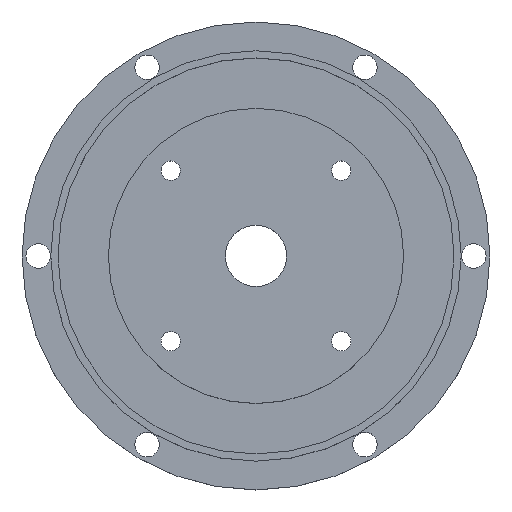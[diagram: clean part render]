
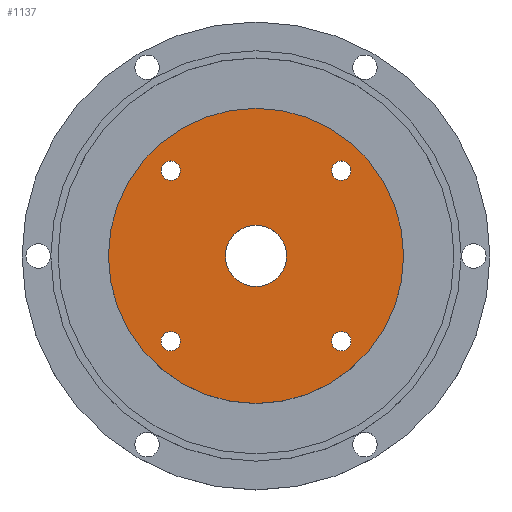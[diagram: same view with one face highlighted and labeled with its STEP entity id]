
A CAD part, top view. The second image highlights one B-rep face of the part: STEP entity #1137.
In plain terms, the highlighted planar face has unit normal (0, 0, 1).
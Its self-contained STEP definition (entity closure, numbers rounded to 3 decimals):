
#160 = CYLINDRICAL_SURFACE('',#161,1.35);
#161 = AXIS2_PLACEMENT_3D('',#162,#163,#164);
#162 = CARTESIAN_POINT('',(-11.844,-11.844,0.));
#163 = DIRECTION('',(-0.,-0.,-1.));
#164 = DIRECTION('',(1.,0.,0.));
#222 = CYLINDRICAL_SURFACE('',#223,1.35);
#223 = AXIS2_PLACEMENT_3D('',#224,#225,#226);
#224 = CARTESIAN_POINT('',(11.844,-11.844,0.));
#225 = DIRECTION('',(-0.,-0.,-1.));
#226 = DIRECTION('',(1.,0.,0.));
#284 = CYLINDRICAL_SURFACE('',#285,4.25);
#285 = AXIS2_PLACEMENT_3D('',#286,#287,#288);
#286 = CARTESIAN_POINT('',(0.,0.,0.));
#287 = DIRECTION('',(-0.,-0.,-1.));
#288 = DIRECTION('',(1.,0.,0.));
#315 = CYLINDRICAL_SURFACE('',#316,1.35);
#316 = AXIS2_PLACEMENT_3D('',#317,#318,#319);
#317 = CARTESIAN_POINT('',(-11.844,11.844,0.));
#318 = DIRECTION('',(-0.,-0.,-1.));
#319 = DIRECTION('',(1.,0.,0.));
#377 = CYLINDRICAL_SURFACE('',#378,1.35);
#378 = AXIS2_PLACEMENT_3D('',#379,#380,#381);
#379 = CARTESIAN_POINT('',(11.844,11.844,0.));
#380 = DIRECTION('',(-0.,-0.,-1.));
#381 = DIRECTION('',(1.,0.,0.));
#697 = VERTEX_POINT('',#698);
#698 = CARTESIAN_POINT('',(-10.494,-11.844,9.));
#719 = EDGE_CURVE('',#697,#697,#720,.T.);
#720 = SURFACE_CURVE('',#721,(#726,#733),.PCURVE_S1.);
#721 = CIRCLE('',#722,1.35);
#722 = AXIS2_PLACEMENT_3D('',#723,#724,#725);
#723 = CARTESIAN_POINT('',(-11.844,-11.844,9.));
#724 = DIRECTION('',(0.,0.,1.));
#725 = DIRECTION('',(1.,0.,0.));
#726 = PCURVE('',#160,#727);
#727 = DEFINITIONAL_REPRESENTATION('',(#728),#732);
#728 = LINE('',#729,#730);
#729 = CARTESIAN_POINT('',(-0.,-9.));
#730 = VECTOR('',#731,1.);
#731 = DIRECTION('',(-1.,0.));
#732 = ( GEOMETRIC_REPRESENTATION_CONTEXT(2) 
PARAMETRIC_REPRESENTATION_CONTEXT() REPRESENTATION_CONTEXT('2D SPACE',''
  ) );
#733 = PCURVE('',#734,#739);
#734 = PLANE('',#735);
#735 = AXIS2_PLACEMENT_3D('',#736,#737,#738);
#736 = CARTESIAN_POINT('',(0.,0.,9.));
#737 = DIRECTION('',(0.,0.,1.));
#738 = DIRECTION('',(1.,0.,-0.));
#739 = DEFINITIONAL_REPRESENTATION('',(#740),#744);
#740 = CIRCLE('',#741,1.35);
#741 = AXIS2_PLACEMENT_2D('',#742,#743);
#742 = CARTESIAN_POINT('',(-11.844,-11.844));
#743 = DIRECTION('',(1.,0.));
#744 = ( GEOMETRIC_REPRESENTATION_CONTEXT(2) 
PARAMETRIC_REPRESENTATION_CONTEXT() REPRESENTATION_CONTEXT('2D SPACE',''
  ) );
#779 = VERTEX_POINT('',#780);
#780 = CARTESIAN_POINT('',(13.194,-11.844,9.));
#801 = EDGE_CURVE('',#779,#779,#802,.T.);
#802 = SURFACE_CURVE('',#803,(#808,#815),.PCURVE_S1.);
#803 = CIRCLE('',#804,1.35);
#804 = AXIS2_PLACEMENT_3D('',#805,#806,#807);
#805 = CARTESIAN_POINT('',(11.844,-11.844,9.));
#806 = DIRECTION('',(0.,0.,1.));
#807 = DIRECTION('',(1.,0.,0.));
#808 = PCURVE('',#222,#809);
#809 = DEFINITIONAL_REPRESENTATION('',(#810),#814);
#810 = LINE('',#811,#812);
#811 = CARTESIAN_POINT('',(-0.,-9.));
#812 = VECTOR('',#813,1.);
#813 = DIRECTION('',(-1.,0.));
#814 = ( GEOMETRIC_REPRESENTATION_CONTEXT(2) 
PARAMETRIC_REPRESENTATION_CONTEXT() REPRESENTATION_CONTEXT('2D SPACE',''
  ) );
#815 = PCURVE('',#734,#816);
#816 = DEFINITIONAL_REPRESENTATION('',(#817),#821);
#817 = CIRCLE('',#818,1.35);
#818 = AXIS2_PLACEMENT_2D('',#819,#820);
#819 = CARTESIAN_POINT('',(11.844,-11.844));
#820 = DIRECTION('',(1.,0.));
#821 = ( GEOMETRIC_REPRESENTATION_CONTEXT(2) 
PARAMETRIC_REPRESENTATION_CONTEXT() REPRESENTATION_CONTEXT('2D SPACE',''
  ) );
#856 = VERTEX_POINT('',#857);
#857 = CARTESIAN_POINT('',(4.25,0.,9.));
#878 = EDGE_CURVE('',#856,#856,#879,.T.);
#879 = SURFACE_CURVE('',#880,(#885,#892),.PCURVE_S1.);
#880 = CIRCLE('',#881,4.25);
#881 = AXIS2_PLACEMENT_3D('',#882,#883,#884);
#882 = CARTESIAN_POINT('',(0.,0.,9.));
#883 = DIRECTION('',(0.,0.,1.));
#884 = DIRECTION('',(1.,0.,0.));
#885 = PCURVE('',#284,#886);
#886 = DEFINITIONAL_REPRESENTATION('',(#887),#891);
#887 = LINE('',#888,#889);
#888 = CARTESIAN_POINT('',(-0.,-9.));
#889 = VECTOR('',#890,1.);
#890 = DIRECTION('',(-1.,0.));
#891 = ( GEOMETRIC_REPRESENTATION_CONTEXT(2) 
PARAMETRIC_REPRESENTATION_CONTEXT() REPRESENTATION_CONTEXT('2D SPACE',''
  ) );
#892 = PCURVE('',#734,#893);
#893 = DEFINITIONAL_REPRESENTATION('',(#894),#898);
#894 = CIRCLE('',#895,4.25);
#895 = AXIS2_PLACEMENT_2D('',#896,#897);
#896 = CARTESIAN_POINT('',(0.,0.));
#897 = DIRECTION('',(1.,0.));
#898 = ( GEOMETRIC_REPRESENTATION_CONTEXT(2) 
PARAMETRIC_REPRESENTATION_CONTEXT() REPRESENTATION_CONTEXT('2D SPACE',''
  ) );
#906 = VERTEX_POINT('',#907);
#907 = CARTESIAN_POINT('',(-10.494,11.844,9.));
#928 = EDGE_CURVE('',#906,#906,#929,.T.);
#929 = SURFACE_CURVE('',#930,(#935,#942),.PCURVE_S1.);
#930 = CIRCLE('',#931,1.35);
#931 = AXIS2_PLACEMENT_3D('',#932,#933,#934);
#932 = CARTESIAN_POINT('',(-11.844,11.844,9.));
#933 = DIRECTION('',(0.,0.,1.));
#934 = DIRECTION('',(1.,0.,0.));
#935 = PCURVE('',#315,#936);
#936 = DEFINITIONAL_REPRESENTATION('',(#937),#941);
#937 = LINE('',#938,#939);
#938 = CARTESIAN_POINT('',(-0.,-9.));
#939 = VECTOR('',#940,1.);
#940 = DIRECTION('',(-1.,0.));
#941 = ( GEOMETRIC_REPRESENTATION_CONTEXT(2) 
PARAMETRIC_REPRESENTATION_CONTEXT() REPRESENTATION_CONTEXT('2D SPACE',''
  ) );
#942 = PCURVE('',#734,#943);
#943 = DEFINITIONAL_REPRESENTATION('',(#944),#948);
#944 = CIRCLE('',#945,1.35);
#945 = AXIS2_PLACEMENT_2D('',#946,#947);
#946 = CARTESIAN_POINT('',(-11.844,11.844));
#947 = DIRECTION('',(1.,0.));
#948 = ( GEOMETRIC_REPRESENTATION_CONTEXT(2) 
PARAMETRIC_REPRESENTATION_CONTEXT() REPRESENTATION_CONTEXT('2D SPACE',''
  ) );
#983 = VERTEX_POINT('',#984);
#984 = CARTESIAN_POINT('',(13.194,11.844,9.));
#1005 = EDGE_CURVE('',#983,#983,#1006,.T.);
#1006 = SURFACE_CURVE('',#1007,(#1012,#1019),.PCURVE_S1.);
#1007 = CIRCLE('',#1008,1.35);
#1008 = AXIS2_PLACEMENT_3D('',#1009,#1010,#1011);
#1009 = CARTESIAN_POINT('',(11.844,11.844,9.));
#1010 = DIRECTION('',(0.,0.,1.));
#1011 = DIRECTION('',(1.,0.,0.));
#1012 = PCURVE('',#377,#1013);
#1013 = DEFINITIONAL_REPRESENTATION('',(#1014),#1018);
#1014 = LINE('',#1015,#1016);
#1015 = CARTESIAN_POINT('',(-0.,-9.));
#1016 = VECTOR('',#1017,1.);
#1017 = DIRECTION('',(-1.,0.));
#1018 = ( GEOMETRIC_REPRESENTATION_CONTEXT(2) 
PARAMETRIC_REPRESENTATION_CONTEXT() REPRESENTATION_CONTEXT('2D SPACE',''
  ) );
#1019 = PCURVE('',#734,#1020);
#1020 = DEFINITIONAL_REPRESENTATION('',(#1021),#1025);
#1021 = CIRCLE('',#1022,1.35);
#1022 = AXIS2_PLACEMENT_2D('',#1023,#1024);
#1023 = CARTESIAN_POINT('',(11.844,11.844));
#1024 = DIRECTION('',(1.,0.));
#1025 = ( GEOMETRIC_REPRESENTATION_CONTEXT(2) 
PARAMETRIC_REPRESENTATION_CONTEXT() REPRESENTATION_CONTEXT('2D SPACE',''
  ) );
#1137 = ADVANCED_FACE('',(#1138,#1169,#1172,#1175,#1178,#1181),#734,.T.
  );
#1138 = FACE_BOUND('',#1139,.T.);
#1139 = EDGE_LOOP('',(#1140));
#1140 = ORIENTED_EDGE('',*,*,#1141,.T.);
#1141 = EDGE_CURVE('',#1142,#1142,#1144,.T.);
#1142 = VERTEX_POINT('',#1143);
#1143 = CARTESIAN_POINT('',(20.5,0.,9.));
#1144 = SURFACE_CURVE('',#1145,(#1150,#1157),.PCURVE_S1.);
#1145 = CIRCLE('',#1146,20.5);
#1146 = AXIS2_PLACEMENT_3D('',#1147,#1148,#1149);
#1147 = CARTESIAN_POINT('',(0.,0.,9.));
#1148 = DIRECTION('',(0.,0.,1.));
#1149 = DIRECTION('',(1.,0.,0.));
#1150 = PCURVE('',#734,#1151);
#1151 = DEFINITIONAL_REPRESENTATION('',(#1152),#1156);
#1152 = CIRCLE('',#1153,20.5);
#1153 = AXIS2_PLACEMENT_2D('',#1154,#1155);
#1154 = CARTESIAN_POINT('',(0.,0.));
#1155 = DIRECTION('',(1.,0.));
#1156 = ( GEOMETRIC_REPRESENTATION_CONTEXT(2) 
PARAMETRIC_REPRESENTATION_CONTEXT() REPRESENTATION_CONTEXT('2D SPACE',''
  ) );
#1157 = PCURVE('',#1158,#1163);
#1158 = CYLINDRICAL_SURFACE('',#1159,20.5);
#1159 = AXIS2_PLACEMENT_3D('',#1160,#1161,#1162);
#1160 = CARTESIAN_POINT('',(0.,0.,2.5)
  );
#1161 = DIRECTION('',(-0.,-0.,-1.));
#1162 = DIRECTION('',(1.,0.,0.));
#1163 = DEFINITIONAL_REPRESENTATION('',(#1164),#1168);
#1164 = LINE('',#1165,#1166);
#1165 = CARTESIAN_POINT('',(-0.,-6.5));
#1166 = VECTOR('',#1167,1.);
#1167 = DIRECTION('',(-1.,0.));
#1168 = ( GEOMETRIC_REPRESENTATION_CONTEXT(2) 
PARAMETRIC_REPRESENTATION_CONTEXT() REPRESENTATION_CONTEXT('2D SPACE',''
  ) );
#1169 = FACE_BOUND('',#1170,.T.);
#1170 = EDGE_LOOP('',(#1171));
#1171 = ORIENTED_EDGE('',*,*,#719,.F.);
#1172 = FACE_BOUND('',#1173,.T.);
#1173 = EDGE_LOOP('',(#1174));
#1174 = ORIENTED_EDGE('',*,*,#801,.F.);
#1175 = FACE_BOUND('',#1176,.T.);
#1176 = EDGE_LOOP('',(#1177));
#1177 = ORIENTED_EDGE('',*,*,#928,.F.);
#1178 = FACE_BOUND('',#1179,.T.);
#1179 = EDGE_LOOP('',(#1180));
#1180 = ORIENTED_EDGE('',*,*,#878,.F.);
#1181 = FACE_BOUND('',#1182,.T.);
#1182 = EDGE_LOOP('',(#1183));
#1183 = ORIENTED_EDGE('',*,*,#1005,.F.);
